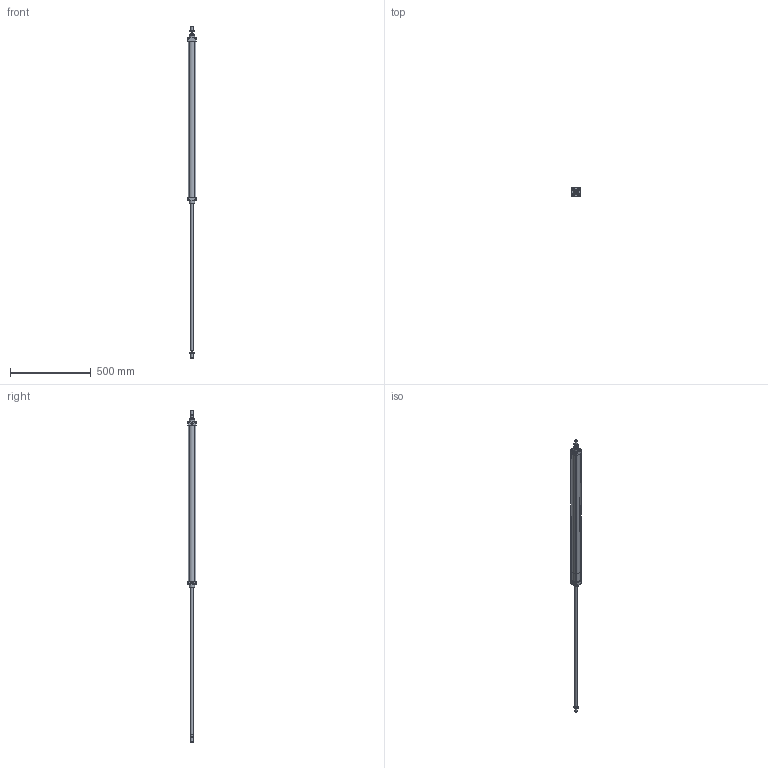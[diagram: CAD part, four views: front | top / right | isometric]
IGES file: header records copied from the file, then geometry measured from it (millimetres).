
Global section: file name: 1303_040_0900_02A; native system: Autodesk Inventor 2014; preprocessor: unknown; author: A. Manieri; date: 20161123.144342; units: millimetre
Bounding box: 52 x 52 x 2050 mm (x, y, z)
Volume: 1132444.3 mm3; surface area: 489042.1 mm2
Topology: 10 solids, 10 shells, 189 faces, 471 edges, 314 vertices
Faces by surface type: bspline 189
